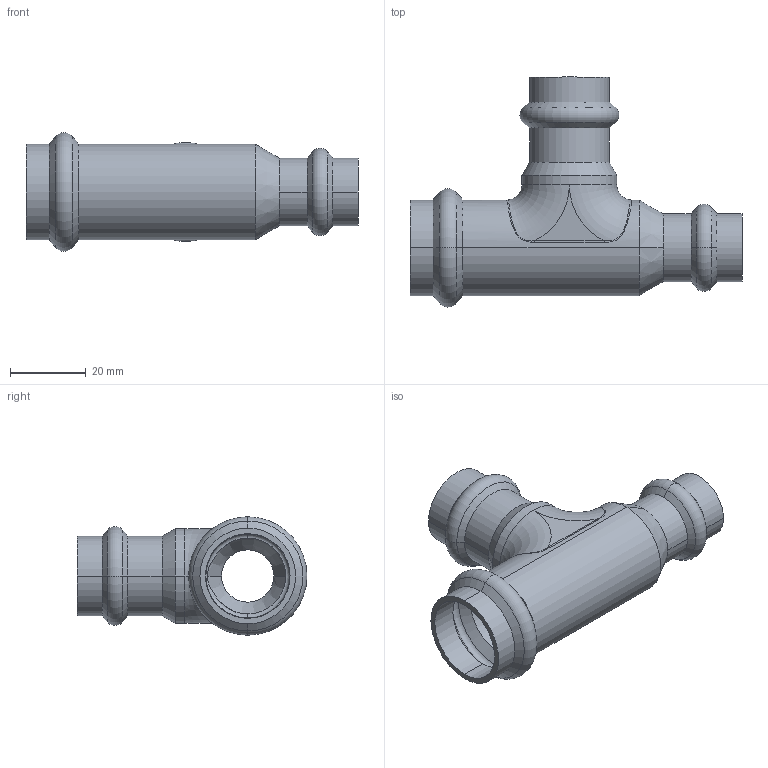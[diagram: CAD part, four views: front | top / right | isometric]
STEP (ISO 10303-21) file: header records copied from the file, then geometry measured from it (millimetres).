
FILE_DESCRIPTION (( 'STEP AP203' ), '1' );
FILE_NAME ('SP5130 Ø22-18-15.STEP', '2017-04-24T13:13:40', ( '' ), ( '' ), 'SwSTEP 2.0', 'SolidWorks 2016', '' );
FILE_SCHEMA (( 'CONFIG_CONTROL_DESIGN' ));
Length unit declared in the file: millimetre
Products named in the file (1): SP5130 Ø22-18-15
Bounding box: 87.5 x 60.6 x 31.2 mm (x, y, z)
Volume: 15882.6 mm3; surface area: 17421.3 mm2
Topology: 1 solids, 1 shells, 105 faces, 234 edges, 128 vertices
Faces by surface type: cylinder 37, cone 36, torus 20, bspline 6, plane 6
Entity records: 4363 total; most frequent: CARTESIAN_POINT 1948, DIRECTION 550, ORIENTED_EDGE 460, AXIS2_PLACEMENT_3D 238, EDGE_CURVE 230, CIRCLE 138, VERTEX_POINT 128, EDGE_LOOP 110
